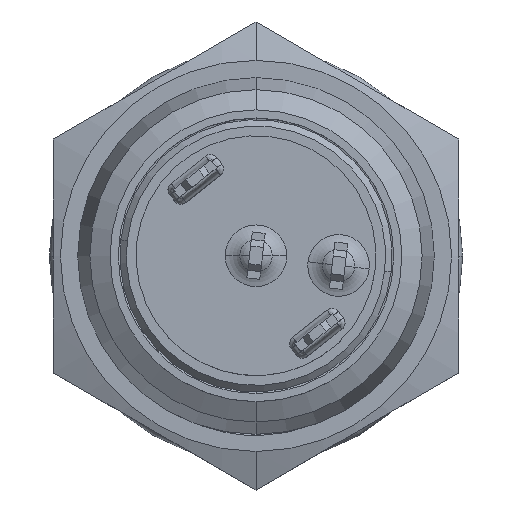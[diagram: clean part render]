
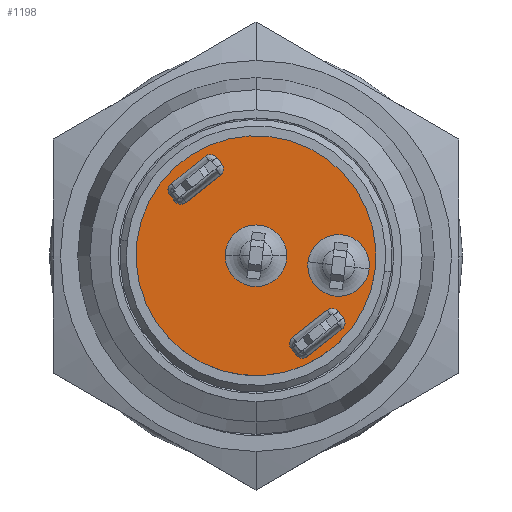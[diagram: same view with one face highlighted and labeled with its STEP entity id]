
A CAD part, top view. The second image highlights one B-rep face of the part: STEP entity #1198.
In plain terms, the highlighted planar face has unit normal (0, 0, 1).
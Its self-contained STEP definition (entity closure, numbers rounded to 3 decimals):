
#953=CARTESIAN_POINT('',(0.,0.,1.94));
#954=DIRECTION('',(0.,0.,1.));
#955=DIRECTION('',(0.993,-0.117,0.));
#956=AXIS2_PLACEMENT_3D('',#953,#954,#955);
#958=CARTESIAN_POINT('',(0.,0.,1.94));
#959=DIRECTION('',(0.,0.,-1.));
#960=DIRECTION('',(0.993,-0.117,0.));
#961=AXIS2_PLACEMENT_3D('',#958,#959,#960);
#963=DIRECTION('',(0.62,-0.785,0.));
#964=VECTOR('',#963,0.7);
#965=CARTESIAN_POINT('',(-5.213,4.102,1.94));
#966=LINE('',#965,#964);
#967=DIRECTION('',(0.785,0.62,0.));
#968=VECTOR('',#967,3.1);
#969=CARTESIAN_POINT('',(-4.779,3.553,1.94));
#970=LINE('',#969,#968);
#971=DIRECTION('',(-0.62,0.785,0.));
#972=VECTOR('',#971,0.7);
#973=CARTESIAN_POINT('',(-2.346,5.474,1.94));
#974=LINE('',#973,#972);
#975=DIRECTION('',(-0.785,-0.62,0.));
#976=VECTOR('',#975,3.1);
#977=CARTESIAN_POINT('',(-2.78,6.023,1.94));
#978=LINE('',#977,#976);
#979=DIRECTION('',(0.62,-0.785,0.));
#980=VECTOR('',#979,0.7);
#981=CARTESIAN_POINT('',(2.346,-5.474,1.94));
#982=LINE('',#981,#980);
#983=DIRECTION('',(0.785,0.62,0.));
#984=VECTOR('',#983,3.1);
#985=CARTESIAN_POINT('',(2.78,-6.023,1.94));
#986=LINE('',#985,#984);
#987=DIRECTION('',(-0.62,0.785,0.));
#988=VECTOR('',#987,0.7);
#989=CARTESIAN_POINT('',(5.213,-4.102,1.94));
#990=LINE('',#989,#988);
#991=DIRECTION('',(-0.785,-0.62,0.));
#992=VECTOR('',#991,3.1);
#993=CARTESIAN_POINT('',(4.779,-3.553,1.94));
#994=LINE('',#993,#992);
#995=DIRECTION('',(-0.117,-0.993,0.));
#996=VECTOR('',#995,2.9);
#997=CARTESIAN_POINT('',(-0.277,1.493,1.94));
#998=LINE('',#997,#996);
#999=DIRECTION('',(0.993,-0.117,0.));
#1000=VECTOR('',#999,0.9);
#1001=CARTESIAN_POINT('',(-0.616,-1.387,1.94));
#1002=LINE('',#1001,#1000);
#1003=DIRECTION('',(0.117,0.993,0.));
#1004=VECTOR('',#1003,2.9);
#1005=CARTESIAN_POINT('',(0.277,-1.493,1.94));
#1006=LINE('',#1005,#1004);
#1007=DIRECTION('',(-0.993,0.117,0.));
#1008=VECTOR('',#1007,0.9);
#1009=CARTESIAN_POINT('',(0.616,1.387,1.94));
#1010=LINE('',#1009,#1008);
#1011=DIRECTION('',(-0.117,-0.993,0.));
#1012=VECTOR('',#1011,2.9);
#1013=CARTESIAN_POINT('',(4.768,0.899,1.94));
#1014=LINE('',#1013,#1012);
#1015=DIRECTION('',(0.993,-0.117,0.));
#1016=VECTOR('',#1015,0.9);
#1017=CARTESIAN_POINT('',(4.429,-1.981,1.94));
#1018=LINE('',#1017,#1016);
#1019=DIRECTION('',(0.117,0.993,0.));
#1020=VECTOR('',#1019,2.9);
#1021=CARTESIAN_POINT('',(5.323,-2.087,1.94));
#1022=LINE('',#1021,#1020);
#1023=DIRECTION('',(-0.993,0.117,0.));
#1024=VECTOR('',#1023,0.9);
#1025=CARTESIAN_POINT('',(5.662,0.793,1.94));
#1026=LINE('',#1025,#1024);
#1028=CARTESIAN_POINT('',(7.349,-0.865,1.94));
#1030=VERTEX_POINT('',#1028);
#1032=CARTESIAN_POINT('',(-7.349,0.865,1.94));
#1034=VERTEX_POINT('',#1032);
#1035=CARTESIAN_POINT('',(-4.779,3.553,1.94));
#1036=CARTESIAN_POINT('',(-5.213,4.102,1.94));
#1037=VERTEX_POINT('',#1035);
#1038=VERTEX_POINT('',#1036);
#1039=CARTESIAN_POINT('',(-2.346,5.474,1.94));
#1040=CARTESIAN_POINT('',(-2.78,6.023,1.94));
#1041=VERTEX_POINT('',#1039);
#1042=VERTEX_POINT('',#1040);
#1043=CARTESIAN_POINT('',(2.346,-5.474,1.94));
#1044=CARTESIAN_POINT('',(2.78,-6.023,1.94));
#1045=VERTEX_POINT('',#1043);
#1046=VERTEX_POINT('',#1044);
#1047=CARTESIAN_POINT('',(4.779,-3.553,1.94));
#1048=CARTESIAN_POINT('',(5.213,-4.102,1.94));
#1049=VERTEX_POINT('',#1047);
#1050=VERTEX_POINT('',#1048);
#1051=CARTESIAN_POINT('',(-0.616,-1.387,1.94));
#1052=CARTESIAN_POINT('',(-0.277,1.493,1.94));
#1053=VERTEX_POINT('',#1051);
#1054=VERTEX_POINT('',#1052);
#1055=CARTESIAN_POINT('',(0.616,1.387,1.94));
#1056=VERTEX_POINT('',#1055);
#1057=CARTESIAN_POINT('',(0.277,-1.493,1.94));
#1058=VERTEX_POINT('',#1057);
#1059=CARTESIAN_POINT('',(4.429,-1.981,1.94));
#1060=CARTESIAN_POINT('',(4.768,0.899,1.94));
#1061=VERTEX_POINT('',#1059);
#1062=VERTEX_POINT('',#1060);
#1063=CARTESIAN_POINT('',(5.662,0.793,1.94));
#1064=VERTEX_POINT('',#1063);
#1065=CARTESIAN_POINT('',(5.323,-2.087,1.94));
#1066=VERTEX_POINT('',#1065);
#1149=CARTESIAN_POINT('',(0.,0.,1.94));
#1150=DIRECTION('',(0.,0.,-1.));
#1151=DIRECTION('',(-0.993,0.117,0.));
#1152=AXIS2_PLACEMENT_3D('',#1149,#1150,#1151);
#1153=PLANE('',#1152);
#1154=ORIENTED_EDGE('',*,*,#1128,.F.);
#1155=ORIENTED_EDGE('',*,*,#1144,.T.);
#1156=EDGE_LOOP('',(#1154,#1155));
#1157=FACE_OUTER_BOUND('',#1156,.F.);
#1159=ORIENTED_EDGE('',*,*,#1158,.T.);
#1161=ORIENTED_EDGE('',*,*,#1160,.T.);
#1163=ORIENTED_EDGE('',*,*,#1162,.T.);
#1165=ORIENTED_EDGE('',*,*,#1164,.T.);
#1166=EDGE_LOOP('',(#1159,#1161,#1163,#1165));
#1167=FACE_BOUND('',#1166,.F.);
#1169=ORIENTED_EDGE('',*,*,#1168,.T.);
#1171=ORIENTED_EDGE('',*,*,#1170,.T.);
#1173=ORIENTED_EDGE('',*,*,#1172,.T.);
#1175=ORIENTED_EDGE('',*,*,#1174,.T.);
#1176=EDGE_LOOP('',(#1169,#1171,#1173,#1175));
#1177=FACE_BOUND('',#1176,.F.);
#1179=ORIENTED_EDGE('',*,*,#1178,.T.);
#1181=ORIENTED_EDGE('',*,*,#1180,.T.);
#1183=ORIENTED_EDGE('',*,*,#1182,.T.);
#1185=ORIENTED_EDGE('',*,*,#1184,.T.);
#1186=EDGE_LOOP('',(#1179,#1181,#1183,#1185));
#1187=FACE_BOUND('',#1186,.F.);
#1189=ORIENTED_EDGE('',*,*,#1188,.T.);
#1191=ORIENTED_EDGE('',*,*,#1190,.T.);
#1193=ORIENTED_EDGE('',*,*,#1192,.T.);
#1195=ORIENTED_EDGE('',*,*,#1194,.T.);
#1196=EDGE_LOOP('',(#1189,#1191,#1193,#1195));
#1197=FACE_BOUND('',#1196,.F.);
#1198=ADVANCED_FACE('',(#1157,#1167,#1177,#1187,#1197),#1153,.F.);
#957=CIRCLE('',#956,7.4);
#962=CIRCLE('',#961,7.4);
#1128=EDGE_CURVE('',#1030,#1034,#957,.T.);
#1144=EDGE_CURVE('',#1030,#1034,#962,.T.);
#1158=EDGE_CURVE('',#1038,#1037,#966,.T.);
#1160=EDGE_CURVE('',#1037,#1041,#970,.T.);
#1162=EDGE_CURVE('',#1041,#1042,#974,.T.);
#1164=EDGE_CURVE('',#1042,#1038,#978,.T.);
#1168=EDGE_CURVE('',#1045,#1046,#982,.T.);
#1170=EDGE_CURVE('',#1046,#1050,#986,.T.);
#1172=EDGE_CURVE('',#1050,#1049,#990,.T.);
#1174=EDGE_CURVE('',#1049,#1045,#994,.T.);
#1178=EDGE_CURVE('',#1054,#1053,#998,.T.);
#1180=EDGE_CURVE('',#1053,#1058,#1002,.T.);
#1182=EDGE_CURVE('',#1058,#1056,#1006,.T.);
#1184=EDGE_CURVE('',#1056,#1054,#1010,.T.);
#1188=EDGE_CURVE('',#1062,#1061,#1014,.T.);
#1190=EDGE_CURVE('',#1061,#1066,#1018,.T.);
#1192=EDGE_CURVE('',#1066,#1064,#1022,.T.);
#1194=EDGE_CURVE('',#1064,#1062,#1026,.T.);
